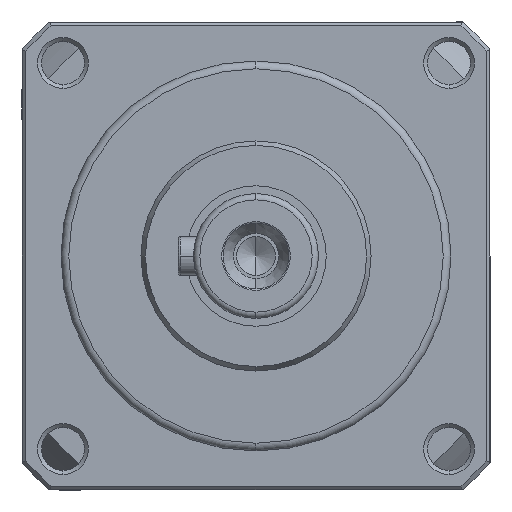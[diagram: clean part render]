
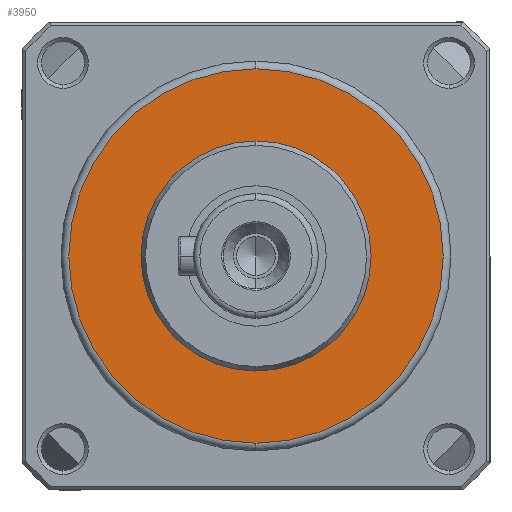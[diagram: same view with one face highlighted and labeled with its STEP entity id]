
A CAD part, left-side view. The second image highlights one B-rep face of the part: STEP entity #3950.
In plain terms, the highlighted planar face has unit normal (-1, 0, 0).
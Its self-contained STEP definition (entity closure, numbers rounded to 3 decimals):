
#384 = AXIS2_PLACEMENT_3D ( 'NONE', #4721, #5353, #5324 ) ;
#1003 = FACE_OUTER_BOUND ( 'NONE', #3754, .T. ) ;
#1343 = CIRCLE ( 'NONE', #4268, 14.75 ) ;
#1358 = ORIENTED_EDGE ( 'NONE', *, *, #2278, .T. ) ;
#1756 = CARTESIAN_POINT ( 'NONE',  ( -189.798, 30.717, 14.75 ) ) ;
#1777 = PLANE ( 'NONE',  #6819 ) ;
#1832 = CARTESIAN_POINT ( 'NONE',  ( -189.798, 45.467, 0. ) ) ;
#1919 = DIRECTION ( 'NONE',  ( 0., 0., -1. ) ) ;
#2088 = VERTEX_POINT ( 'NONE', #2599 ) ;
#2168 = VERTEX_POINT ( 'NONE', #7985 ) ;
#2214 = DIRECTION ( 'NONE',  ( 0., 0., 1. ) ) ;
#2278 = EDGE_CURVE ( 'NONE', #2088, #3676, #7906, .T. ) ;
#2481 = DIRECTION ( 'NONE',  ( 0., 0., -1. ) ) ;
#2541 = ORIENTED_EDGE ( 'NONE', *, *, #2954, .F. ) ;
#2599 = CARTESIAN_POINT ( 'NONE',  ( -189.798, 30.717, 24. ) ) ;
#2928 = CIRCLE ( 'NONE', #384, 24. ) ;
#2954 = EDGE_CURVE ( 'NONE', #3406, #2168, #1343, .T. ) ;
#3300 = CARTESIAN_POINT ( 'NONE',  ( -189.798, 30.717, -24. ) ) ;
#3401 = AXIS2_PLACEMENT_3D ( 'NONE', #4476, #5768, #1919 ) ;
#3406 = VERTEX_POINT ( 'NONE', #1756 ) ;
#3676 = VERTEX_POINT ( 'NONE', #3300 ) ;
#3754 = EDGE_LOOP ( 'NONE', ( #4447, #1358 ) ) ;
#3950 = ADVANCED_FACE ( 'NONE', ( #1003, #5347 ), #1777, .F. ) ;
#4145 = ORIENTED_EDGE ( 'NONE', *, *, #7984, .F. ) ;
#4268 = AXIS2_PLACEMENT_3D ( 'NONE', #7325, #6694, #2214 ) ;
#4447 = ORIENTED_EDGE ( 'NONE', *, *, #5319, .T. ) ;
#4476 = CARTESIAN_POINT ( 'NONE',  ( -189.798, 30.717, 0. ) ) ;
#4721 = CARTESIAN_POINT ( 'NONE',  ( -189.798, 30.717, 0. ) ) ;
#5279 = CIRCLE ( 'NONE', #7712, 14.75 ) ;
#5319 = EDGE_CURVE ( 'NONE', #3676, #2088, #2928, .T. ) ;
#5324 = DIRECTION ( 'NONE',  ( 0., 0., -1. ) ) ;
#5347 = FACE_BOUND ( 'NONE', #6787, .T. ) ;
#5353 = DIRECTION ( 'NONE',  ( -1., 0., 0. ) ) ;
#5578 = CARTESIAN_POINT ( 'NONE',  ( -189.798, 30.717, 0. ) ) ;
#5768 = DIRECTION ( 'NONE',  ( -1., 0., 0. ) ) ;
#6694 = DIRECTION ( 'NONE',  ( -1., 0., 0. ) ) ;
#6787 = EDGE_LOOP ( 'NONE', ( #2541, #4145 ) ) ;
#6796 = DIRECTION ( 'NONE',  ( 0., 0., 1. ) ) ;
#6819 = AXIS2_PLACEMENT_3D ( 'NONE', #1832, #6955, #2481 ) ;
#6955 = DIRECTION ( 'NONE',  ( 1., 0., 0. ) ) ;
#7325 = CARTESIAN_POINT ( 'NONE',  ( -189.798, 30.717, 0. ) ) ;
#7534 = DIRECTION ( 'NONE',  ( -1., 0., 0. ) ) ;
#7712 = AXIS2_PLACEMENT_3D ( 'NONE', #5578, #7534, #6796 ) ;
#7906 = CIRCLE ( 'NONE', #3401, 24. ) ;
#7984 = EDGE_CURVE ( 'NONE', #2168, #3406, #5279, .T. ) ;
#7985 = CARTESIAN_POINT ( 'NONE',  ( -189.798, 30.717, -14.75 ) ) ;
